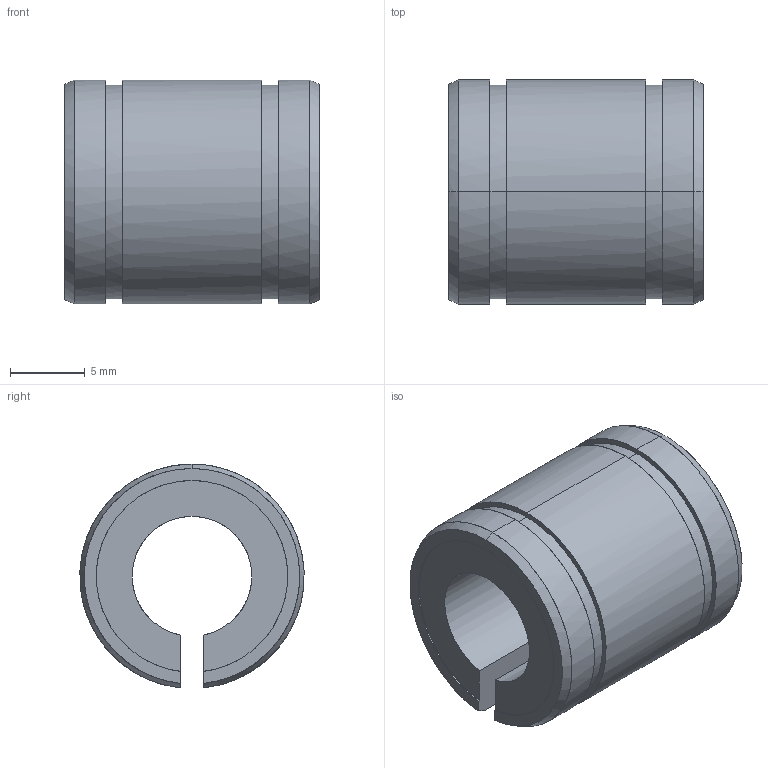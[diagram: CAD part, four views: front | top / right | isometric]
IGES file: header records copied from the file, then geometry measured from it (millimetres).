
Global section: file name: No Iges File Name specified; native system: AutoDesk Inventor R10; preprocessor: AutoDesk Inventor Iges Exporter R10; author: No Author specified; organization: No Organization specified; date: 20101208.095710; units: millimetre
Bounding box: 17 x 14.98 x 14.96 mm (x, y, z)
Surface area: 1575.5 mm2 (no closed solid volume)
Topology: 0 solids, 0 shells, 30 faces, 244 edges, 244 vertices
Faces by surface type: bspline 30
